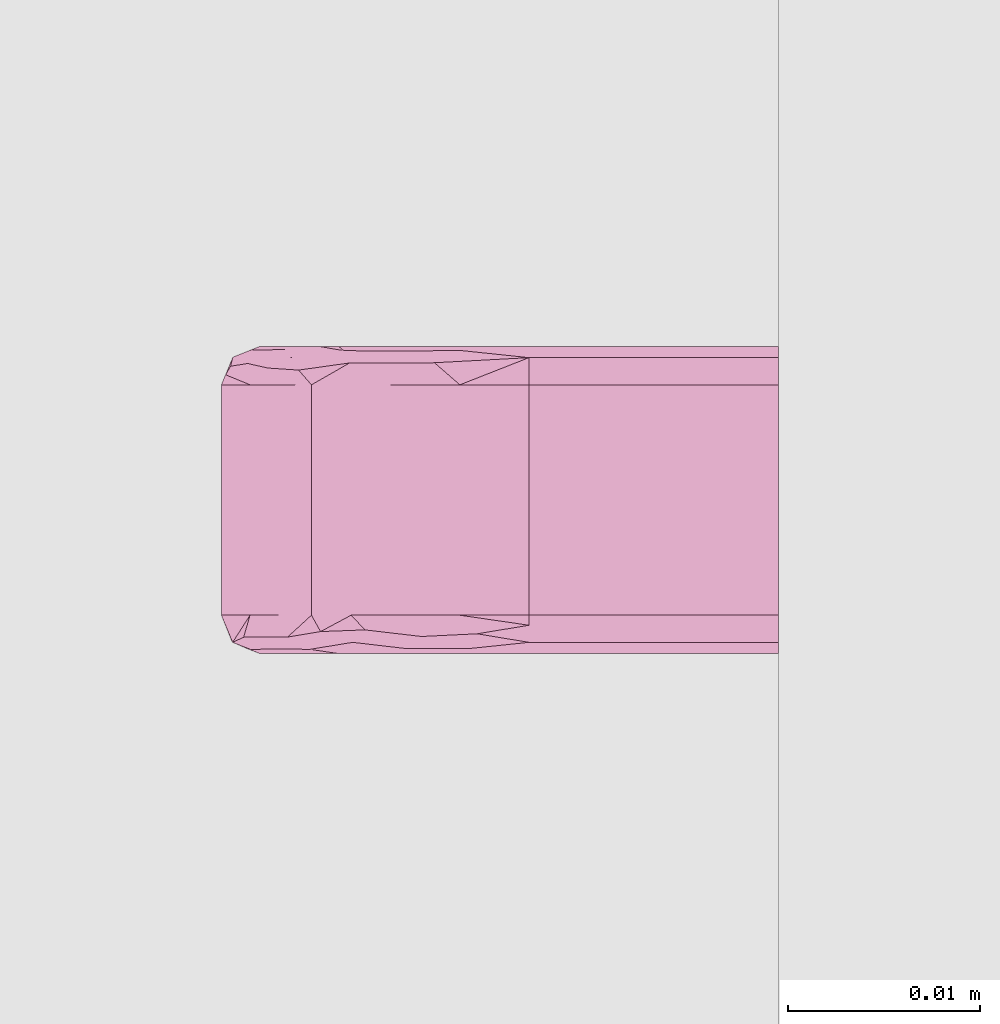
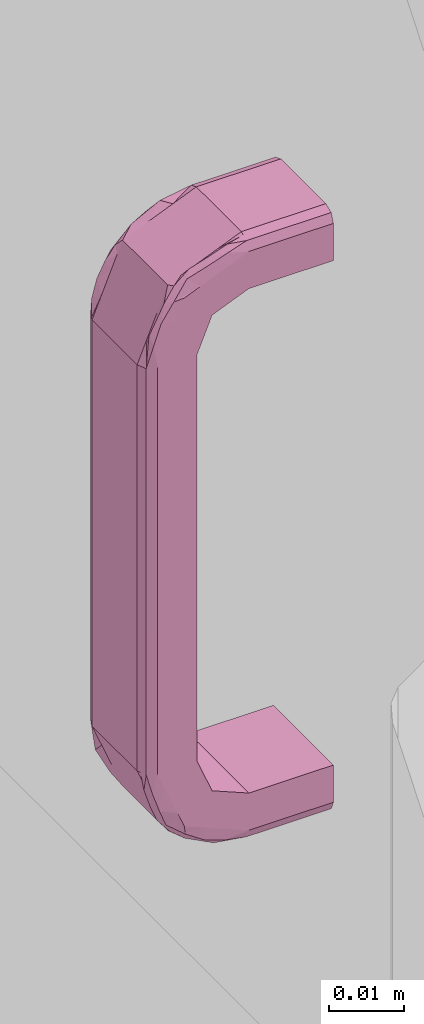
# One storey, part 54 of 65: 1 furnishing.
"""IFC2X3 building model written with IfcOpenShell, lengths in millimetres."""

from ifc_helpers import new_model, entity, si_unit, converted_unit, direction, frame, origin, place, context, subcontext, project, spatial, faceted_brep, source, transform, mapped, material, type_object, type_shapes, element, save


model = new_model("IFC2X3")

# Units and contexts
model_context = context("Model", 3, precision=0.01, world=origin(), true_north=direction((0.0, 1.0)))
body_context = subcontext(model_context, "Body", "Model", "MODEL_VIEW")
ifc_project = project(units=[si_unit("LENGTHUNIT", "METRE", prefix="MILLI"), si_unit("AREAUNIT", "SQUARE_METRE"), si_unit("VOLUMEUNIT", "CUBIC_METRE"), converted_unit("PLANEANGLEUNIT", "DEGREE", entity("IfcPlaneAngleMeasure", 0.017453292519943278), si_unit("PLANEANGLEUNIT", "RADIAN"), dimensions=[0, 0, 0, 0, 0, 0, 0])], contexts=[model_context])

# Site, building, storey, space
site_placement = place(None, origin())
site = spatial("IfcSite", under=ifc_project, at=site_placement, Name="Default", CompositionType="ELEMENT")
building_placement = place(site_placement, origin())
building = spatial("IfcBuilding", under=site, at=building_placement, CompositionType="ELEMENT")
storey_placement = place(building_placement, origin())
storey = spatial("IfcBuildingStorey", under=building, at=storey_placement, Name="Et. 1", CompositionType="ELEMENT", Elevation=0.0)
space_placement = place(storey_placement, origin())
space = spatial("IfcSpace", under=storey, at=space_placement, Name="113", CompositionType="ELEMENT", InteriorOrExteriorSpace="INTERNAL")

# Furnishing
ifc_material = material(Name="Focus - Kjøkken - Håndtak")
furniture_type = type_object("IfcFurnitureType", Name="Focus - Håndtak Skap:Håndtak skap", AssemblyPlace="NOTDEFINED", material=ifc_material)
shared_shape = source(origin(), body_context, "Body", "Brep", [
    faceted_brep([(-8.0, 0.0, 2.021099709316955), (-8.0, 0.0, -4.0210997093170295), (8.0, 0.0, -4.0210997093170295), (8.0, 0.0, 2.0210997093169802), (7.414213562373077, 0.0, 3.435313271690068), (6.0, 0.0, 4.021099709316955), (-6.0, 0.0, 4.021099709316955), (-7.414213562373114, 0.0, 3.435313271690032), (-6.0, 0.0, -94.02109970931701), (6.0, 0.0, -94.02109970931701), (7.414213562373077, 0.0, -93.43531327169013), (8.0, 0.0, -92.02109970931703), (8.0, 0.0, -85.97890029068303), (-8.0, 0.0, -85.97890029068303), (-8.0, 0.0, -92.02109970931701), (-7.414213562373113, 0.0, -93.43531327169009), (7.414213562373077, 13.0, 3.4353132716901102), (6.0, 13.0, 4.021099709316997), (8.0, 13.0, 2.0210997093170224), (7.707106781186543, 13.0, 2.728206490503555), (8.0, 13.0, -4.021099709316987), (8.0, 18.641934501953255, -6.358065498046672), (8.0, 20.97890029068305, -12.0), (8.0, 20.978900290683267, -78.0), (8.0, 18.64193450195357, -83.64193450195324), (8.0, 13.0, -85.97890029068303), (8.0, 13.0, -92.02109970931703), (8.0, 15.478603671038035, -90.99442845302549), (8.0, 17.957207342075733, -89.96775719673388), (8.0, 20.435811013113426, -88.94108594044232), (8.0, 22.914414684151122, -87.91441468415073), (8.0, 24.221910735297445, -84.75783998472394), (8.0, 25.52940678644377, -81.60126528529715), (8.0, 27.021099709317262, -78.0), (8.0, 27.021099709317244, -65.65496001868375), (8.0, 27.021099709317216, -57.34504034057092), (8.0, 27.02109970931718, -47.01756015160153), (8.0, 27.02109970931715, -36.69007996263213), (8.0, 27.021099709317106, -24.345039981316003), (8.0, 27.021099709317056, -12.0), (8.0, 25.994428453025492, -9.521396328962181), (8.0, 24.967757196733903, -7.042792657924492), (8.0, 23.941085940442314, -4.564188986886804), (8.0, 22.914414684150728, -2.0855853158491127), (8.0, 19.757839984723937, -0.7780892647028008), (8.0, 16.60126528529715, 0.5294067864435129), (-8.0, 13.0, -4.021099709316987), (-8.0, 13.0, -92.021099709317), (-8.0, 13.0, -85.97890029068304), (-8.0, 18.64193450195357, -83.64193450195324), (-8.0, 20.978900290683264, -78.0), (-8.0, 20.978900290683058, -12.0), (-8.0, 18.641934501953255, -6.358065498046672), (-8.0, 13.0, 2.0210997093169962), (-8.0, 15.478603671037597, 0.9944284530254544), (-8.0, 17.9572073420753, -0.032242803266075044), (-8.0, 20.435811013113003, -1.0589140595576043), (-8.0, 22.914414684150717, -2.0855853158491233), (-8.0, 24.221910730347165, -5.242160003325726), (-8.0, 25.529406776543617, -8.398734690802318), (-8.0, 27.021099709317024, -12.0), (-8.0, 27.021099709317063, -24.345040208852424), (-8.0, 27.0210997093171, -34.67252000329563), (-8.0, 27.02109970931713, -44.99999979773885), (-8.0, 27.021099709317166, -55.32747999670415), (-8.0, 27.0210997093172, -65.65496019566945), (-8.0, 27.021099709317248, -78.0), (-8.0, 25.99442845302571, -80.47860367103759), (-8.0, 24.967757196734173, -82.9572073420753), (-8.0, 23.941085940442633, -85.43581101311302), (-8.0, 22.914414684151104, -87.91441468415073), (-8.0, 19.757839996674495, -89.22191073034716), (-8.0, 16.601265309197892, -90.52940677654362), (-7.414213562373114, 13.0, 3.4353132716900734), (-6.0, 13.0, 4.021099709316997), (-6.523051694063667, 13.0, 3.804444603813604), (7.761199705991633, 19.75591670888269, 1.3575143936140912), (7.776828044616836, 22.64140257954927, -0.588486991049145), (7.832026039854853, 25.954055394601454, -4.794062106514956), (6.765366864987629, 25.00295364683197, -1.6197407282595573), (6.0, 25.18317105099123, -2.734420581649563), (6.0, 24.3286282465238, -0.6713717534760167), (7.148530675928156, 17.923500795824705, 2.864246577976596), (7.138822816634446, 22.341444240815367, 0.575216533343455), (6.0, 20.202530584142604, 1.03771385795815), (7.108929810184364, 27.65191997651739, -6.400304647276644), (6.0, 27.52940678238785, -8.39873470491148), (6.0, 26.674863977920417, -6.335685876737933), (6.0, 26.037713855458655, -4.797469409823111), (6.873580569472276, 26.59747716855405, -3.913704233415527), (6.0, 25.501746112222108, -3.5035288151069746), (7.807346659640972, 27.454202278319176, -8.476170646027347), (7.78360390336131, 16.52927433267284, 2.502698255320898), (6.0, 16.60126529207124, 2.529406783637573), (7.414213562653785, 25.4087319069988, -2.820007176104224), (6.0, 21.496471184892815, 0.5017461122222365), (6.968390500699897, 28.538770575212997, -9.30339655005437), (6.523051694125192, 28.80444460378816, -12.0), (6.0, 29.021099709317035, -12.0), (6.0, 27.847981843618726, -9.167842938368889), (7.414213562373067, 28.43531327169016, -12.0), (6.0, 18.664314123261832, 1.67486397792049), (-6.0, 15.832157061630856, 2.8479818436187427), (-6.0, 16.601265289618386, 2.529406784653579), (-7.76119969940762, 26.357514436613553, -5.2440833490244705), (-7.783603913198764, 27.502698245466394, -8.470725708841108), (-7.10892981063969, 18.599695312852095, 2.651919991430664), (-6.0, 18.664314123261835, 1.67486397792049), (-6.0, 20.202530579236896, 1.0377138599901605), (-7.744591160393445, 19.340507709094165, 1.5930015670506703), (-7.730939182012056, 16.04875454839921, 2.7104148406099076), (-6.76536686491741, 21.540484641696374, 1.3746327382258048), (-6.0, 21.496471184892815, 0.5017461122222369), (-6.0, 22.265579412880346, 0.18317105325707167), (-7.13882282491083, 25.57521654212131, -2.658555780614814), (-7.1485306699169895, 27.864246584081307, -7.076499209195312), (-6.0, 26.037713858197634, -4.797469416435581), (-7.414213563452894, 22.17999279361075, 0.4087319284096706), (-7.776828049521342, 24.411513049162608, -2.35859748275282), (-6.853012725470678, 23.855367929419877, -0.47819170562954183), (-6.0, 27.52940678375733, -8.398734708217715), (-7.414213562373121, 28.43531327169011, -12.0), (-6.0, 24.3286282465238, -0.6713717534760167), (-6.0, 25.501746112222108, -3.503528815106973), (-7.7071067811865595, 27.728206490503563, -12.0), (-6.96839049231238, 15.696603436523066, 3.5387705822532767), (-6.0, 29.021099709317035, -12.0), (-6.0, 26.674863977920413, -6.335685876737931), (7.414213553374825, 28.435313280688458, -29.508780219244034), (7.450985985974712, 28.39755881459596, -41.85381987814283), (6.0, 29.02109970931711, -34.6725200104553), (7.414213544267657, 28.435313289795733, -61.499999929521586), (7.4142135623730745, 28.435313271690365, -78.0), (6.0, 29.021099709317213, -65.65496164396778), (6.0, 29.02109970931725, -78.0), (6.0, 29.02109970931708, -24.345039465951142), (7.707106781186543, 27.728206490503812, -78.0), (6.0, 29.021099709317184, -55.32748109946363), (6.0, 29.02109970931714, -45.00000055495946), (-6.0, 29.02109970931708, -24.345039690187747), (-6.0, 29.02109970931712, -36.69007989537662), (-7.414213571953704, 28.43531326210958, -29.508780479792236), (-7.41421357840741, 28.435313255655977, -61.4999999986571), (-7.414213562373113, 28.43531327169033, -78.0), (-7.3764591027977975, 28.472085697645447, -41.85382016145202), (-6.0, 29.02109970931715, -47.0175595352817), (-6.0, 29.02109970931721, -65.65495979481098), (-6.0, 29.02109970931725, -78.0), (-6.523051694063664, 28.80444460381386, -78.0), (-6.0, 29.021099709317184, -57.345039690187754), (7.7611997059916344, 26.35751439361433, -84.75591670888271), (7.776828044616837, 24.411513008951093, -87.64140257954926), (7.832026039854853, 20.205937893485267, -90.95405539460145), (7.138822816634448, 25.575216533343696, -87.34144424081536), (6.7653668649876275, 23.380259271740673, -90.00295364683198), (6.0, 24.328628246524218, -89.32862824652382), (7.148530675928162, 27.864246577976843, -82.92350079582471), (6.0, 26.037713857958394, -85.2025305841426), (7.108929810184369, 18.599695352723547, -92.6519199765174), (6.0, 16.60126529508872, -92.52940678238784), (6.0, 18.66431412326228, -91.67486397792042), (6.0, 20.202530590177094, -91.03771385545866), (6.0, 22.265579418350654, -90.18317105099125), (7.807346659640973, 16.523829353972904, -92.45420227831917), (7.783603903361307, 27.50269825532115, -81.52927433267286), (6.0, 27.529406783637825, -81.60126529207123), (6.873580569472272, 21.08629576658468, -91.59747716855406), (7.414213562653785, 22.179992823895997, -90.40873190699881), (6.0, 25.50174611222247, -86.49647118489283), (6.968390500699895, 15.69660344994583, -93.538770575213), (6.52305169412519, 13.0, -93.80444460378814), (6.0, 13.0, -94.02109970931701), (6.0, 15.832157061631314, -92.84798184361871), (7.414213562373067, 13.0, -93.43531327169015), (6.0, 26.67486397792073, -83.66431412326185), (6.0, 21.49647118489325, -90.50174611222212), (-6.0, 27.847981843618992, -80.83215706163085), (-6.0, 27.529406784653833, -81.60126528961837), (-7.761199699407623, 19.75591665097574, -91.35751443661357), (-7.783603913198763, 16.529274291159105, -92.50269824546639), (-7.108929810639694, 27.651919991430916, -83.59969531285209), (-6.0, 26.674863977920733, -83.66431412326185), (-6.0, 26.037713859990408, -85.20253057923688), (-7.74459116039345, 26.593001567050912, -84.34050770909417), (-7.730939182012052, 27.71041484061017, -81.04875454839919), (-6.76536686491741, 26.374632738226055, -86.54048464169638), (-6.0, 25.50174611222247, -86.49647118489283), (-6.0, 25.183171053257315, -87.26557941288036), (-7.138822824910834, 22.341444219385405, -90.57521654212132), (-7.148530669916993, 17.923500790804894, -92.8642465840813), (-6.0, 20.202530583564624, -91.03771385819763), (-7.414213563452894, 25.40873192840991, -87.17999279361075), (-7.7768280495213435, 22.641402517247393, -89.41151304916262), (-6.853012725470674, 24.521808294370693, -88.8553679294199), (-6.0, 16.60126529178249, -92.52940678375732), (-7.41421356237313, 13.0, -93.43531327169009), (-6.0, 24.328628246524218, -89.32862824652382), (-6.0, 21.49647118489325, -90.50174611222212), (-7.707106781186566, 13.0, -92.72820649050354), (-6.96839049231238, 28.538770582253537, -80.69660343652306), (-6.0, 13.0, -94.02109970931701), (-6.0, 18.66431412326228, -91.67486397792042)], [[[0, 1, 2, 3, 4, 5, 6, 7]], [[8, 9, 10, 11, 12, 13, 14, 15]], [[5, 4, 16, 17]], [[3, 18, 19, 16, 4]], [[18, 3, 2, 20, 21, 22, 23, 24, 25, 12, 11, 26, 27, 28, 29, 30, 31, 32, 33, 34, 35, 36, 37, 38, 39, 40, 41, 42, 43, 44, 45]], [[20, 2, 1, 46]], [[47, 14, 13, 48, 49, 50, 51, 52, 46, 1, 0, 53, 54, 55, 56, 57, 58, 59, 60, 61, 62, 63, 64, 65, 66, 67, 68, 69, 70, 71, 72]], [[0, 7, 73, 53]], [[6, 74, 75, 73, 7]], [[17, 74, 6, 5]], [[76, 44, 77]], [[42, 41, 78]], [[79, 80, 81]], [[82, 83, 84]], [[85, 86, 87, 88]], [[89, 88, 90, 80]], [[78, 41, 91]], [[45, 76, 92]], [[82, 93, 16]], [[85, 89, 94]], [[83, 81, 95, 84]], [[96, 97, 86]], [[83, 82, 76]], [[78, 77, 42]], [[79, 94, 89]], [[42, 77, 43]], [[82, 16, 92]], [[92, 16, 19, 18]], [[97, 98, 99, 86]], [[91, 39, 100]], [[83, 76, 77]], [[92, 18, 45]], [[83, 77, 94]], [[43, 77, 44]], [[76, 45, 44]], [[92, 76, 82]], [[17, 16, 93]], [[82, 84, 101, 93]], [[79, 83, 94]], [[79, 81, 83]], [[79, 89, 80]], [[89, 85, 88]], [[78, 94, 77]], [[78, 85, 94]], [[85, 78, 91]], [[91, 96, 85]], [[40, 39, 91, 41]], [[100, 97, 96]], [[100, 96, 91]], [[85, 96, 86]], [[20, 46, 52, 21]], [[52, 51, 22, 21]], [[75, 74, 102, 103]], [[59, 104, 105]], [[106, 103, 107, 108]], [[106, 109, 110]], [[111, 108, 112, 113]], [[114, 115, 104]], [[116, 115, 114]], [[117, 56, 109]], [[104, 58, 118]], [[117, 109, 106]], [[111, 119, 117]], [[115, 120, 121]], [[114, 122, 123, 116]], [[119, 111, 113]], [[118, 117, 119]], [[56, 118, 57]], [[115, 121, 105]], [[105, 121, 124, 60]], [[73, 125, 110]], [[106, 110, 125]], [[114, 104, 118]], [[105, 60, 59]], [[119, 114, 118]], [[57, 118, 58]], [[104, 59, 58]], [[105, 104, 115]], [[126, 121, 120]], [[115, 116, 127, 120]], [[111, 106, 108]], [[111, 117, 106]], [[119, 122, 114]], [[122, 119, 113]], [[117, 118, 56]], [[73, 75, 125]], [[125, 75, 103]], [[106, 125, 103]], [[110, 53, 73]], [[109, 56, 55, 54]], [[54, 110, 109]], [[54, 53, 110]], [[123, 122, 81, 80, 90, 88, 87, 86, 99, 98, 126, 120, 127, 116]], [[81, 122, 113, 112, 108, 107, 103, 102, 74, 17, 93, 101, 84, 95]], [[100, 38, 37, 128]], [[128, 129, 130]], [[131, 129, 36]], [[131, 132, 133]], [[132, 134, 133]], [[135, 98, 97, 100]], [[135, 100, 128, 130]], [[131, 36, 35, 34]], [[34, 33, 136, 132]], [[100, 39, 38]], [[132, 131, 34]], [[131, 137, 129]], [[36, 129, 37]], [[129, 137, 138, 130]], [[129, 128, 37]], [[131, 133, 137]], [[23, 22, 51, 50]], [[121, 139, 140, 141]], [[142, 143, 65]], [[142, 144, 145]], [[146, 147, 148, 143]], [[121, 126, 139]], [[143, 66, 65]], [[61, 60, 124, 121]], [[61, 121, 141, 62]], [[142, 145, 149, 146]], [[141, 144, 62]], [[143, 142, 146]], [[142, 64, 144]], [[145, 144, 140]], [[144, 64, 63, 62]], [[144, 141, 140]], [[142, 65, 64]], [[126, 98, 135, 130, 138, 137, 133, 134, 147, 146, 149, 145, 140, 139]], [[150, 31, 151]], [[29, 28, 152]], [[153, 154, 155]], [[156, 153, 157]], [[158, 159, 160, 161]], [[162, 155, 154]], [[152, 28, 163]], [[32, 150, 164]], [[156, 165, 132]], [[158, 166, 167]], [[153, 155, 168, 157]], [[169, 170, 159]], [[153, 156, 150]], [[152, 151, 29]], [[154, 167, 166]], [[29, 151, 30]], [[156, 132, 164]], [[164, 132, 136, 33]], [[170, 171, 172, 159]], [[163, 26, 173]], [[153, 150, 151]], [[164, 33, 32]], [[153, 151, 167]], [[30, 151, 31]], [[150, 32, 31]], [[164, 150, 156]], [[134, 132, 165]], [[156, 157, 174, 165]], [[166, 161, 175, 162]], [[167, 154, 153]], [[154, 166, 162]], [[166, 158, 161]], [[152, 167, 151]], [[152, 158, 167]], [[158, 152, 163]], [[163, 169, 158]], [[27, 26, 163, 28]], [[173, 170, 169]], [[173, 169, 163]], [[158, 169, 159]], [[23, 50, 49, 24]], [[49, 48, 25, 24]], [[148, 147, 176, 177]], [[72, 178, 179]], [[180, 177, 181, 182]], [[180, 183, 184]], [[185, 182, 186, 187]], [[188, 189, 178]], [[190, 189, 188]], [[191, 69, 183]], [[178, 71, 192]], [[191, 183, 180]], [[185, 193, 191]], [[189, 194, 195]], [[188, 196, 197, 190]], [[193, 185, 187]], [[192, 191, 193]], [[69, 192, 70]], [[189, 195, 179]], [[179, 195, 198, 47]], [[143, 199, 184]], [[180, 184, 199]], [[188, 178, 192]], [[179, 47, 72]], [[193, 188, 192]], [[70, 192, 71]], [[178, 72, 71]], [[179, 178, 189]], [[200, 195, 194]], [[189, 190, 201, 194]], [[185, 180, 182]], [[185, 191, 180]], [[193, 196, 188]], [[196, 193, 187]], [[191, 192, 69]], [[143, 148, 199]], [[199, 148, 177]], [[180, 199, 177]], [[184, 66, 143]], [[183, 69, 68, 67]], [[67, 184, 183]], [[67, 66, 184]], [[197, 196, 155, 162, 175, 161, 160, 159, 172, 171, 200, 194, 201, 190]], [[155, 196, 187, 186, 182, 181, 177, 176, 147, 134, 165, 174, 157, 168]], [[171, 170, 173, 10, 9]], [[26, 11, 10, 173]], [[13, 12, 25, 48]], [[47, 198, 195, 15, 14]], [[200, 8, 15, 195]], [[8, 200, 171, 9]]]),
])
type_shapes(furniture_type, [shared_shape])
furnishing_placement = place(space_placement, frame((33549.00958675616, 9694.180957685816, 1440.0), z_axis=(0.0, 0.0, 1.0), x_axis=(0.0, 1.0, 0.0)))
element("IfcFurnishingElement", 1, at=furnishing_placement, inside=space, type_object=furniture_type, material=ifc_material, Name="Focus - Håndtak Skap:Håndtak skap", context=body_context, shape_type="MappedRepresentation", body=[
    mapped(shared_shape, transform((0.0, 0.0, 0.0), scale=1.0)),
])

save(model, "model.ifc")
